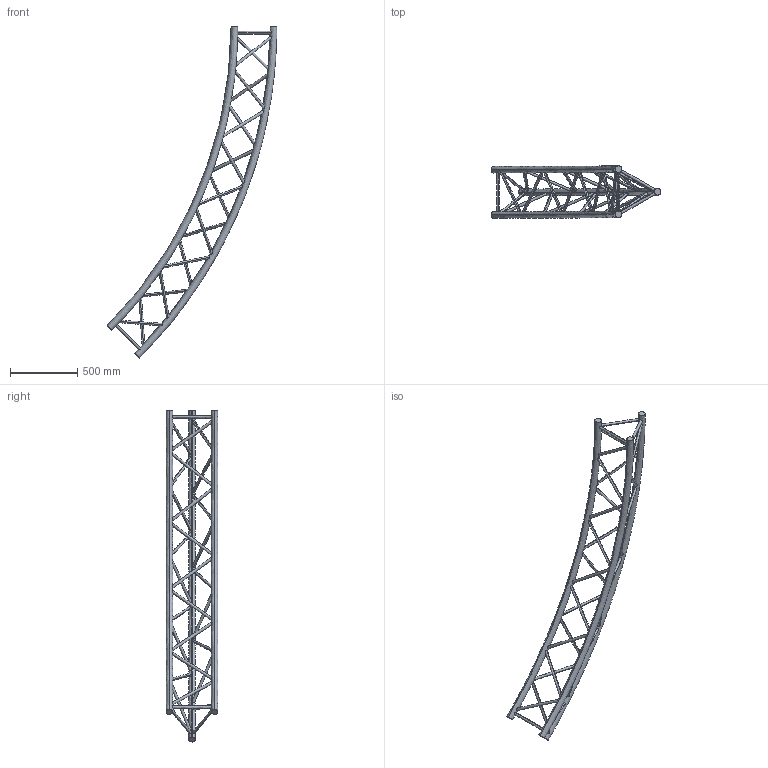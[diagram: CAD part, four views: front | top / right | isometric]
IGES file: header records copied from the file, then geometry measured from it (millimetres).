
Start section: SolidWorks IGES file using analytic representation for surfaces
Global section: file name: K:\BIBLIO\asd_biblio\SX390\Cercles\SXC39PE\SXC39700PE\SXC39700PE.IGS; native system: SolidWorks 2009; preprocessor: SolidWorks 2009; author: des3; date: 091021.141803; units: millimetre
Bounding box: 1266.85 x 387 x 2474.87 mm (x, y, z)
Surface area: 1937146.2 mm2 (no closed solid volume)
Topology: 0 solids, 0 shells, 78 faces, 5536 edges, 5536 vertices
Faces by surface type: revolution 66, bspline 12
